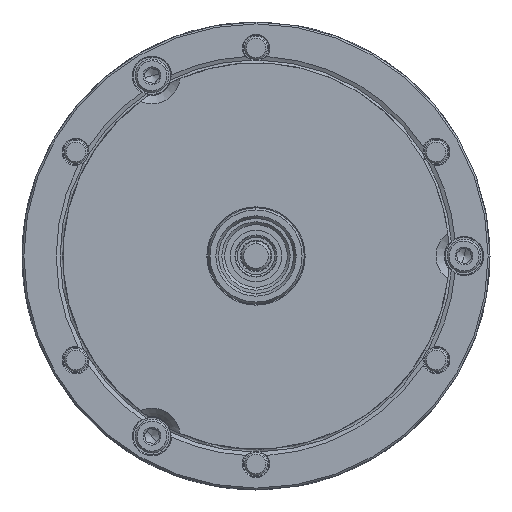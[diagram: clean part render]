
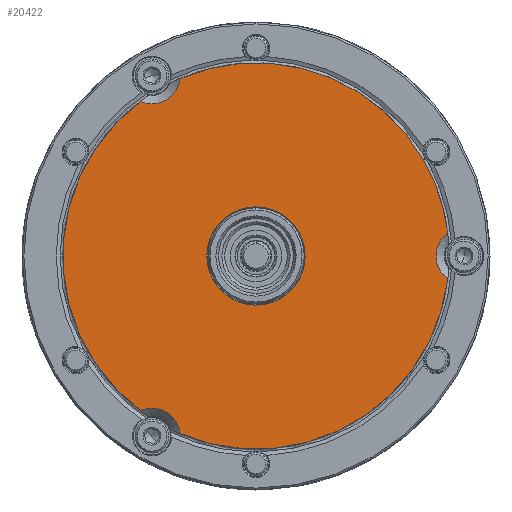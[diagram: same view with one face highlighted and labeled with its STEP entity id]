
A CAD part, left-side view. The second image highlights one B-rep face of the part: STEP entity #20422.
In plain terms, the highlighted planar face has unit normal (-1, 0, 0).
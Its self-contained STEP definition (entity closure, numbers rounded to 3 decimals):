
#441 = FACE_OUTER_BOUND ( 'NONE', #37040, .T. ) ;
#652 = EDGE_CURVE ( 'NONE', #28068, #28631, #11667, .T. ) ;
#706 = DIRECTION ( 'NONE',  ( 0., 0.866, -0.5 ) ) ;
#885 = DIRECTION ( 'NONE',  ( 0., -0.866, 0.5 ) ) ;
#1771 = ORIENTED_EDGE ( 'NONE', *, *, #652, .F. ) ;
#1849 = AXIS2_PLACEMENT_3D ( 'NONE', #23978, #39677, #706 ) ;
#2037 = CARTESIAN_POINT ( 'NONE',  ( -57., 0., 0. ) ) ;
#2138 = DIRECTION ( 'NONE',  ( 0., -0.866, 0.5 ) ) ;
#2359 = AXIS2_PLACEMENT_3D ( 'NONE', #8460, #31481, #46443 ) ;
#2927 = CARTESIAN_POINT ( 'NONE',  ( -57., 9.093, -5.25 ) ) ;
#3161 = CARTESIAN_POINT ( 'NONE',  ( -57., 16.251, 37.941 ) ) ;
#3534 = CIRCLE ( 'NONE', #31818, 10.5 ) ;
#3717 = DIRECTION ( 'NONE',  ( 0., -0.866, 0.5 ) ) ;
#5960 = EDGE_CURVE ( 'NONE', #26216, #48907, #43079, .T. ) ;
#6091 = EDGE_CURVE ( 'NONE', #16475, #48907, #12358, .T. ) ;
#6432 = DIRECTION ( 'NONE',  ( 0., -0.866, 0.5 ) ) ;
#6506 = ORIENTED_EDGE ( 'NONE', *, *, #5960, .T. ) ;
#8460 = CARTESIAN_POINT ( 'NONE',  ( -57., 22.225, -38.495 ) ) ;
#9484 = DIRECTION ( 'NONE',  ( -1., 0., 0. ) ) ;
#10763 = AXIS2_PLACEMENT_3D ( 'NONE', #35566, #36059, #885 ) ;
#11667 = CIRCLE ( 'NONE', #40715, 10.5 ) ;
#11723 = CARTESIAN_POINT ( 'NONE',  ( -57., -44.45, 0. ) ) ;
#12353 = FACE_BOUND ( 'NONE', #25424, .T. ) ;
#12358 = CIRCLE ( 'NONE', #18814, 6. ) ;
#12820 = CARTESIAN_POINT ( 'NONE',  ( -57., 0., 0. ) ) ;
#13687 = AXIS2_PLACEMENT_3D ( 'NONE', #11723, #27123, #42587 ) ;
#15197 = CIRCLE ( 'NONE', #43457, 41.275 ) ;
#15872 = VERTEX_POINT ( 'NONE', #24444 ) ;
#16475 = VERTEX_POINT ( 'NONE', #28443 ) ;
#17093 = DIRECTION ( 'NONE',  ( -1., 0., 0. ) ) ;
#17573 = EDGE_CURVE ( 'NONE', #16475, #48684, #15197, .T. ) ;
#18596 = CARTESIAN_POINT ( 'NONE',  ( -57., 16.251, -37.941 ) ) ;
#18667 = CARTESIAN_POINT ( 'NONE',  ( -57., 0., 0. ) ) ;
#18814 = AXIS2_PLACEMENT_3D ( 'NONE', #44149, #9484, #32743 ) ;
#20422 = ADVANCED_FACE ( 'NONE', ( #12353, #441 ), #46535, .F. ) ;
#20477 = ORIENTED_EDGE ( 'NONE', *, *, #27966, .F. ) ;
#21996 = DIRECTION ( 'NONE',  ( 0., -0.866, 0.5 ) ) ;
#22463 = AXIS2_PLACEMENT_3D ( 'NONE', #49359, #45310, #21996 ) ;
#22622 = DIRECTION ( 'NONE',  ( -1., 0., 0. ) ) ;
#22763 = ORIENTED_EDGE ( 'NONE', *, *, #36027, .F. ) ;
#23978 = CARTESIAN_POINT ( 'NONE',  ( -57., 20.638, 35.745 ) ) ;
#24375 = AXIS2_PLACEMENT_3D ( 'NONE', #2037, #28360, #29103 ) ;
#24444 = CARTESIAN_POINT ( 'NONE',  ( -57., -40.983, 4.897 ) ) ;
#25424 = EDGE_LOOP ( 'NONE', ( #1771, #35308 ) ) ;
#25515 = VERTEX_POINT ( 'NONE', #18596 ) ;
#25798 = CIRCLE ( 'NONE', #2359, 6. ) ;
#26216 = VERTEX_POINT ( 'NONE', #46877 ) ;
#26519 = CARTESIAN_POINT ( 'NONE',  ( -57., -40.983, -4.897 ) ) ;
#27123 = DIRECTION ( 'NONE',  ( -1., 0., 0. ) ) ;
#27966 = EDGE_CURVE ( 'NONE', #15872, #28152, #34695, .T. ) ;
#28068 = VERTEX_POINT ( 'NONE', #29294 ) ;
#28152 = VERTEX_POINT ( 'NONE', #26519 ) ;
#28360 = DIRECTION ( 'NONE',  ( -1., 0., 0. ) ) ;
#28443 = CARTESIAN_POINT ( 'NONE',  ( -57., 24.733, 33.044 ) ) ;
#28631 = VERTEX_POINT ( 'NONE', #2927 ) ;
#29103 = DIRECTION ( 'NONE',  ( 0., -0.866, 0.5 ) ) ;
#29294 = CARTESIAN_POINT ( 'NONE',  ( -57., -9.093, 5.25 ) ) ;
#31141 = ORIENTED_EDGE ( 'NONE', *, *, #6091, .F. ) ;
#31481 = DIRECTION ( 'NONE',  ( -1., 0., 0. ) ) ;
#31677 = ORIENTED_EDGE ( 'NONE', *, *, #43252, .T. ) ;
#31818 = AXIS2_PLACEMENT_3D ( 'NONE', #12820, #17093, #2138 ) ;
#32743 = DIRECTION ( 'NONE',  ( 0., -0.866, 0.5 ) ) ;
#34621 = ORIENTED_EDGE ( 'NONE', *, *, #48287, .T. ) ;
#34695 = CIRCLE ( 'NONE', #13687, 6. ) ;
#35308 = ORIENTED_EDGE ( 'NONE', *, *, #40439, .F. ) ;
#35566 = CARTESIAN_POINT ( 'NONE',  ( -57., 0., 0. ) ) ;
#36027 = EDGE_CURVE ( 'NONE', #25515, #48684, #25798, .T. ) ;
#36059 = DIRECTION ( 'NONE',  ( -1., 0., 0. ) ) ;
#37040 = EDGE_LOOP ( 'NONE', ( #40401, #22763, #34621, #20477, #31677, #6506, #31141 ) ) ;
#39677 = DIRECTION ( 'NONE',  ( 1., 0., 0. ) ) ;
#40401 = ORIENTED_EDGE ( 'NONE', *, *, #17573, .T. ) ;
#40439 = EDGE_CURVE ( 'NONE', #28631, #28068, #3534, .T. ) ;
#40715 = AXIS2_PLACEMENT_3D ( 'NONE', #18667, #42693, #3717 ) ;
#41681 = CARTESIAN_POINT ( 'NONE',  ( -57., 24.733, -33.044 ) ) ;
#42587 = DIRECTION ( 'NONE',  ( 0., 0., -1. ) ) ;
#42693 = DIRECTION ( 'NONE',  ( -1., 0., 0. ) ) ;
#43079 = CIRCLE ( 'NONE', #10763, 41.275 ) ;
#43252 = EDGE_CURVE ( 'NONE', #15872, #26216, #45429, .T. ) ;
#43457 = AXIS2_PLACEMENT_3D ( 'NONE', #49225, #22622, #6432 ) ;
#44149 = CARTESIAN_POINT ( 'NONE',  ( -57., 22.225, 38.495 ) ) ;
#44285 = CIRCLE ( 'NONE', #22463, 41.275 ) ;
#45310 = DIRECTION ( 'NONE',  ( -1., 0., 0. ) ) ;
#45429 = CIRCLE ( 'NONE', #24375, 41.275 ) ;
#46443 = DIRECTION ( 'NONE',  ( 0., 0.866, 0.5 ) ) ;
#46535 = PLANE ( 'NONE',  #1849 ) ;
#46877 = CARTESIAN_POINT ( 'NONE',  ( -57., -35.745, 20.638 ) ) ;
#48287 = EDGE_CURVE ( 'NONE', #25515, #28152, #44285, .T. ) ;
#48684 = VERTEX_POINT ( 'NONE', #41681 ) ;
#48907 = VERTEX_POINT ( 'NONE', #3161 ) ;
#49225 = CARTESIAN_POINT ( 'NONE',  ( -57., 0., 0. ) ) ;
#49359 = CARTESIAN_POINT ( 'NONE',  ( -57., 0., 0. ) ) ;
